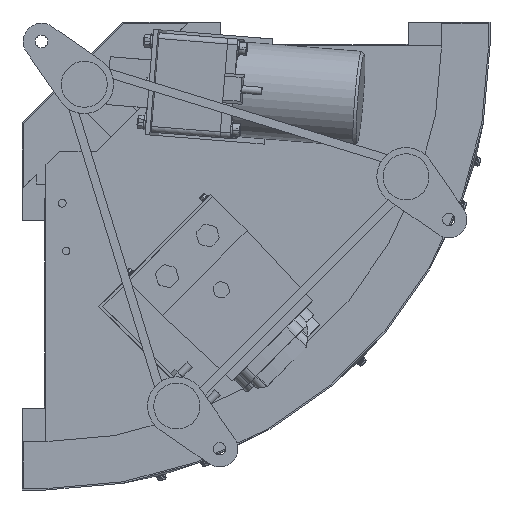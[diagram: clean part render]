
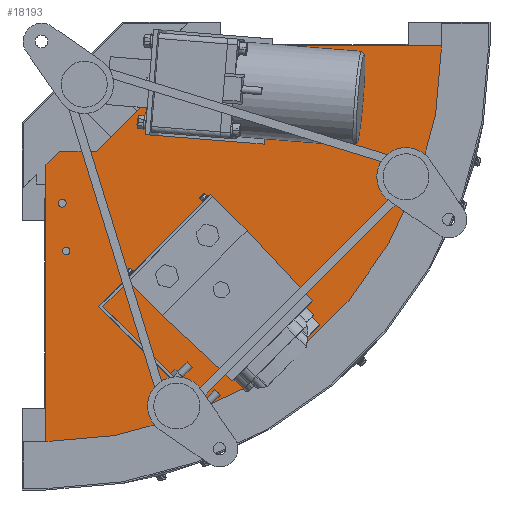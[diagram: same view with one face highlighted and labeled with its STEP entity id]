
A CAD part, front view. The second image highlights one B-rep face of the part: STEP entity #18193.
In plain terms, the highlighted planar face has unit normal (0, -1, 0).
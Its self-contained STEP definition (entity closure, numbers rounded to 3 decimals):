
#10 = CARTESIAN_POINT ( 'NONE',  ( 164., -142.5, -17. ) ) ;
#81 = CARTESIAN_POINT ( 'NONE',  ( 213.84, -142.5, -21. ) ) ;
#415 = DIRECTION ( 'NONE',  ( 0., 0., 1. ) ) ;
#1170 = LINE ( 'NONE', #15391, #6170 ) ;
#1270 = EDGE_CURVE ( 'NONE', #29857, #29823, #28257, .T. ) ;
#1464 = EDGE_LOOP ( 'NONE', ( #20041, #4258, #15001, #22164, #25998, #18898, #29137, #6592 ) ) ;
#1920 = DIRECTION ( 'NONE',  ( 0., 1., 0. ) ) ;
#2002 = AXIS2_PLACEMENT_3D ( 'NONE', #29258, #23091, #11225 ) ;
#2181 = VERTEX_POINT ( 'NONE', #13067 ) ;
#2235 = ORIENTED_EDGE ( 'NONE', *, *, #18133, .F. ) ;
#2801 = EDGE_LOOP ( 'NONE', ( #4005, #20863 ) ) ;
#3024 = AXIS2_PLACEMENT_3D ( 'NONE', #21319, #30070, #12422 ) ;
#3066 = CARTESIAN_POINT ( 'NONE',  ( 14.1, -142.5, -110. ) ) ;
#3282 = FACE_BOUND ( 'NONE', #2801, .T. ) ;
#3384 = CARTESIAN_POINT ( 'NONE',  ( 110., -142.5, -14.1 ) ) ;
#3528 = VERTEX_POINT ( 'NONE', #27459 ) ;
#3810 = DIRECTION ( 'NONE',  ( -0.707, 0., -0.707 ) ) ;
#3905 = CARTESIAN_POINT ( 'NONE',  ( 17., -142.5, -160. ) ) ;
#3963 = DIRECTION ( 'NONE',  ( 0., 0., 1. ) ) ;
#4005 = ORIENTED_EDGE ( 'NONE', *, *, #7393, .F. ) ;
#4258 = ORIENTED_EDGE ( 'NONE', *, *, #9540, .F. ) ;
#4313 = VERTEX_POINT ( 'NONE', #12456 ) ;
#4813 = VERTEX_POINT ( 'NONE', #26814 ) ;
#4998 = DIRECTION ( 'NONE',  ( 0., 0., 1. ) ) ;
#5286 = DIRECTION ( 'NONE',  ( 0., -1., 0. ) ) ;
#5309 = DIRECTION ( 'NONE',  ( 0., 0., 1. ) ) ;
#5342 = CIRCLE ( 'NONE', #13609, 4. ) ;
#5551 = DIRECTION ( 'NONE',  ( 0., -1., 0. ) ) ;
#5811 = CARTESIAN_POINT ( 'NONE',  ( 17., -142.5, -164. ) ) ;
#6107 = CARTESIAN_POINT ( 'NONE',  ( 17., -142.5, -168. ) ) ;
#6170 = VECTOR ( 'NONE', #22335, 1000. ) ;
#6195 = DIRECTION ( 'NONE',  ( 0., 0., 1. ) ) ;
#6406 = ORIENTED_EDGE ( 'NONE', *, *, #1270, .F. ) ;
#6592 = ORIENTED_EDGE ( 'NONE', *, *, #10943, .F. ) ;
#6669 = DIRECTION ( 'NONE',  ( 0., 0., 1. ) ) ;
#6674 = CARTESIAN_POINT ( 'NONE',  ( 0., -142.5, -412.5 ) ) ;
#6685 = CIRCLE ( 'NONE', #21639, 4. ) ;
#6979 = DIRECTION ( 'NONE',  ( 0., 0., -1. ) ) ;
#7393 = EDGE_CURVE ( 'NONE', #31224, #36948, #5342, .T. ) ;
#7890 = CARTESIAN_POINT ( 'NONE',  ( 164., -142.5, -17. ) ) ;
#9127 = EDGE_CURVE ( 'NONE', #27988, #36996, #17455, .T. ) ;
#9194 = CIRCLE ( 'NONE', #2002, 4. ) ;
#9204 = EDGE_CURVE ( 'NONE', #21372, #4813, #30338, .T. ) ;
#9258 = CARTESIAN_POINT ( 'NONE',  ( 412.5, -142.5, 0. ) ) ;
#9306 = FACE_BOUND ( 'NONE', #37968, .T. ) ;
#9540 = EDGE_CURVE ( 'NONE', #12513, #33101, #35861, .T. ) ;
#9816 = VECTOR ( 'NONE', #3963, 1000. ) ;
#10529 = EDGE_CURVE ( 'NONE', #36948, #31224, #6685, .T. ) ;
#10537 = CIRCLE ( 'NONE', #12178, 4. ) ;
#10943 = EDGE_CURVE ( 'NONE', #2181, #23380, #1170, .T. ) ;
#11225 = DIRECTION ( 'NONE',  ( 0., 0., -1. ) ) ;
#11362 = CARTESIAN_POINT ( 'NONE',  ( 62.05, -142.5, -62.05 ) ) ;
#11438 = VECTOR ( 'NONE', #19752, 1000. ) ;
#11610 = CIRCLE ( 'NONE', #29076, 4. ) ;
#11661 = EDGE_LOOP ( 'NONE', ( #16947, #17659 ) ) ;
#12178 = AXIS2_PLACEMENT_3D ( 'NONE', #35779, #29969, #6195 ) ;
#12422 = DIRECTION ( 'NONE',  ( 0., 0., 1. ) ) ;
#12456 = CARTESIAN_POINT ( 'NONE',  ( 213.84, -142.5, -17. ) ) ;
#12513 = VERTEX_POINT ( 'NONE', #3066 ) ;
#12527 = EDGE_LOOP ( 'NONE', ( #21307, #22082 ) ) ;
#12937 = AXIS2_PLACEMENT_3D ( 'NONE', #5811, #5551, #5309 ) ;
#12948 = AXIS2_PLACEMENT_3D ( 'NONE', #37394, #1920, #4998 ) ;
#13019 = FACE_BOUND ( 'NONE', #11661, .T. ) ;
#13067 = CARTESIAN_POINT ( 'NONE',  ( 110., -142.5, -52.635 ) ) ;
#13109 = LINE ( 'NONE', #20732, #17237 ) ;
#13609 = AXIS2_PLACEMENT_3D ( 'NONE', #10, #5286, #25956 ) ;
#14408 = LINE ( 'NONE', #6674, #9816 ) ;
#15001 = ORIENTED_EDGE ( 'NONE', *, *, #30928, .T. ) ;
#15124 = EDGE_CURVE ( 'NONE', #16261, #23380, #19274, .T. ) ;
#15311 = FACE_OUTER_BOUND ( 'NONE', #1464, .T. ) ;
#15391 = CARTESIAN_POINT ( 'NONE',  ( 110., -142.5, -14.1 ) ) ;
#16261 = VERTEX_POINT ( 'NONE', #31764 ) ;
#16592 = DIRECTION ( 'NONE',  ( 0., -1., 0. ) ) ;
#16918 = CARTESIAN_POINT ( 'NONE',  ( 21., -142.5, -209.84 ) ) ;
#16947 = ORIENTED_EDGE ( 'NONE', *, *, #9127, .F. ) ;
#17061 = CARTESIAN_POINT ( 'NONE',  ( 52.635, -142.5, -110. ) ) ;
#17237 = VECTOR ( 'NONE', #37978, 1000. ) ;
#17455 = CIRCLE ( 'NONE', #3024, 4. ) ;
#17655 = CIRCLE ( 'NONE', #12937, 4. ) ;
#17659 = ORIENTED_EDGE ( 'NONE', *, *, #28451, .F. ) ;
#18133 = EDGE_CURVE ( 'NONE', #29823, #29857, #17655, .T. ) ;
#18193 = ADVANCED_FACE ( 'NONE', ( #31471, #13019, #9306, #3282, #15311 ), #23824, .F. ) ;
#18898 = ORIENTED_EDGE ( 'NONE', *, *, #31385, .F. ) ;
#19105 = DIRECTION ( 'NONE',  ( 0., -1., 0. ) ) ;
#19249 = VECTOR ( 'NONE', #19640, 1000. ) ;
#19274 = LINE ( 'NONE', #11362, #11438 ) ;
#19454 = DIRECTION ( 'NONE',  ( 0., 0., -1. ) ) ;
#19640 = DIRECTION ( 'NONE',  ( 1., 0., 0. ) ) ;
#19752 = DIRECTION ( 'NONE',  ( -0.707, 0., -0.707 ) ) ;
#20041 = ORIENTED_EDGE ( 'NONE', *, *, #32462, .F. ) ;
#20373 = VECTOR ( 'NONE', #31527, 1000. ) ;
#20732 = CARTESIAN_POINT ( 'NONE',  ( 124., -142.5, 0. ) ) ;
#20863 = ORIENTED_EDGE ( 'NONE', *, *, #10529, .F. ) ;
#20970 = DIRECTION ( 'NONE',  ( 0., 1., 0. ) ) ;
#21251 = EDGE_CURVE ( 'NONE', #4313, #3528, #9194, .T. ) ;
#21307 = ORIENTED_EDGE ( 'NONE', *, *, #25392, .F. ) ;
#21319 = CARTESIAN_POINT ( 'NONE',  ( 21., -142.5, -213.84 ) ) ;
#21372 = VERTEX_POINT ( 'NONE', #9258 ) ;
#21639 = AXIS2_PLACEMENT_3D ( 'NONE', #7890, #16592, #6979 ) ;
#22082 = ORIENTED_EDGE ( 'NONE', *, *, #21251, .F. ) ;
#22164 = ORIENTED_EDGE ( 'NONE', *, *, #23973, .F. ) ;
#22335 = DIRECTION ( 'NONE',  ( 0., 0., 1. ) ) ;
#22820 = AXIS2_PLACEMENT_3D ( 'NONE', #23946, #20970, #415 ) ;
#23091 = DIRECTION ( 'NONE',  ( 0., -1., 0. ) ) ;
#23294 = VECTOR ( 'NONE', #3810, 1000. ) ;
#23380 = VERTEX_POINT ( 'NONE', #3384 ) ;
#23824 = PLANE ( 'NONE',  #22820 ) ;
#23946 = CARTESIAN_POINT ( 'NONE',  ( 0., -142.5, 0. ) ) ;
#23973 = EDGE_CURVE ( 'NONE', #4813, #28495, #14408, .T. ) ;
#25331 = CARTESIAN_POINT ( 'NONE',  ( 110., -142.5, -52.635 ) ) ;
#25392 = EDGE_CURVE ( 'NONE', #3528, #4313, #11610, .T. ) ;
#25956 = DIRECTION ( 'NONE',  ( 0., 0., -1. ) ) ;
#25998 = ORIENTED_EDGE ( 'NONE', *, *, #9204, .F. ) ;
#26456 = LINE ( 'NONE', #33763, #23294 ) ;
#26770 = DIRECTION ( 'NONE',  ( 0., -1., 0. ) ) ;
#26814 = CARTESIAN_POINT ( 'NONE',  ( 0., -142.5, -412.5 ) ) ;
#27459 = CARTESIAN_POINT ( 'NONE',  ( 213.84, -142.5, -25. ) ) ;
#27988 = VERTEX_POINT ( 'NONE', #32332 ) ;
#28257 = CIRCLE ( 'NONE', #29234, 4. ) ;
#28451 = EDGE_CURVE ( 'NONE', #36996, #27988, #10537, .T. ) ;
#28495 = VERTEX_POINT ( 'NONE', #32795 ) ;
#28590 = CARTESIAN_POINT ( 'NONE',  ( 164., -142.5, -21. ) ) ;
#29076 = AXIS2_PLACEMENT_3D ( 'NONE', #81, #26770, #19454 ) ;
#29137 = ORIENTED_EDGE ( 'NONE', *, *, #15124, .T. ) ;
#29234 = AXIS2_PLACEMENT_3D ( 'NONE', #30690, #19105, #6669 ) ;
#29258 = CARTESIAN_POINT ( 'NONE',  ( 213.84, -142.5, -21. ) ) ;
#29823 = VERTEX_POINT ( 'NONE', #6107 ) ;
#29857 = VERTEX_POINT ( 'NONE', #3905 ) ;
#29969 = DIRECTION ( 'NONE',  ( 0., -1., 0. ) ) ;
#30070 = DIRECTION ( 'NONE',  ( 0., -1., 0. ) ) ;
#30338 = CIRCLE ( 'NONE', #12948, 412.5 ) ;
#30690 = CARTESIAN_POINT ( 'NONE',  ( 17., -142.5, -164. ) ) ;
#30928 = EDGE_CURVE ( 'NONE', #12513, #28495, #26456, .T. ) ;
#31224 = VERTEX_POINT ( 'NONE', #28590 ) ;
#31385 = EDGE_CURVE ( 'NONE', #16261, #21372, #13109, .T. ) ;
#31471 = FACE_BOUND ( 'NONE', #12527, .T. ) ;
#31527 = DIRECTION ( 'NONE',  ( 0.707, 0., 0.707 ) ) ;
#31764 = CARTESIAN_POINT ( 'NONE',  ( 124.1, -142.5, 0. ) ) ;
#32332 = CARTESIAN_POINT ( 'NONE',  ( 21., -142.5, -217.84 ) ) ;
#32462 = EDGE_CURVE ( 'NONE', #33101, #2181, #36518, .T. ) ;
#32795 = CARTESIAN_POINT ( 'NONE',  ( 0., -142.5, -124.1 ) ) ;
#33101 = VERTEX_POINT ( 'NONE', #17061 ) ;
#33763 = CARTESIAN_POINT ( 'NONE',  ( 62.05, -142.5, -62.05 ) ) ;
#33930 = CARTESIAN_POINT ( 'NONE',  ( 52.635, -142.5, -110. ) ) ;
#35779 = CARTESIAN_POINT ( 'NONE',  ( 21., -142.5, -213.84 ) ) ;
#35861 = LINE ( 'NONE', #33930, #19249 ) ;
#36518 = LINE ( 'NONE', #25331, #20373 ) ;
#36632 = CARTESIAN_POINT ( 'NONE',  ( 164., -142.5, -13. ) ) ;
#36948 = VERTEX_POINT ( 'NONE', #36632 ) ;
#36996 = VERTEX_POINT ( 'NONE', #16918 ) ;
#37394 = CARTESIAN_POINT ( 'NONE',  ( 0., -142.5, 0. ) ) ;
#37968 = EDGE_LOOP ( 'NONE', ( #2235, #6406 ) ) ;
#37978 = DIRECTION ( 'NONE',  ( 1., 0., 0. ) ) ;
